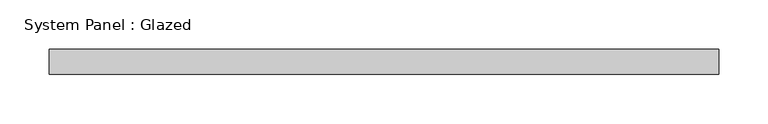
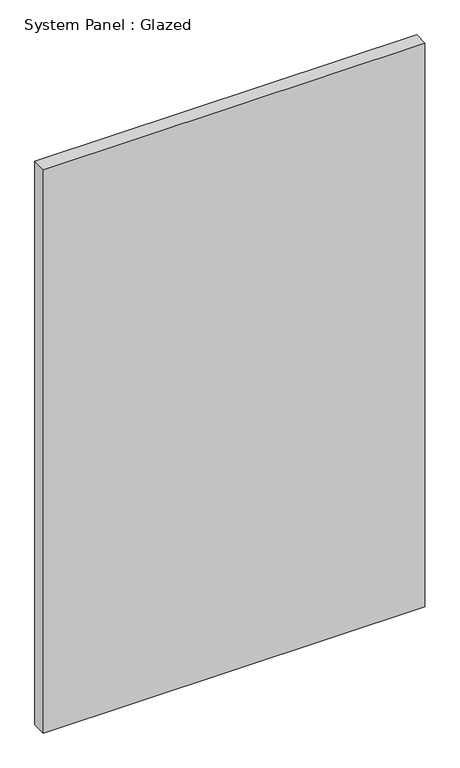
"""IFC4 building model written with IfcOpenShell, lengths in millimetres: plate geometry, System Panel : Glazed."""

from ifc_helpers import new_model, si_unit, origin, origin_with_axes, place, context, project, spatial, polyline, outline, extrude, source, transform, mapped, element, save


def system_panel_glazed_3f8747ce(model_context):
    return source(origin(), model_context, "Body", "SweptSolid", [
        extrude(outline(polyline([(339.725, 19.05), (-339.725, 19.05), (-339.725, 44.45), (339.725, 44.45), (339.725, 19.05)])), origin_with_axes(), (0.0, 0.0, 1.0), 1060.45),
    ])


if __name__ == "__main__":
    model = new_model("IFC4")
    model_context = context("Model", 3, world=origin())
    ifc_project = project(units=[si_unit("LENGTHUNIT", "METRE", prefix="MILLI")], contexts=[model_context])
    site = spatial("IfcSite", under=ifc_project)
    building = spatial("IfcBuilding", under=site)
    placement = place(None, origin())
    system_panel_glazed_shape = system_panel_glazed_3f8747ce(model_context)
    element("IfcPlate", 1, ObjectType="System Panel : Glazed", at=placement, inside=building, context=model_context, shape_type="MappedRepresentation", body=[
        mapped(system_panel_glazed_shape, transform((0.0, 0.0, 0.0), x_axis=(1.0, 0.0, 0.0), y_axis=(0.0, 1.0, 0.0), z_axis=(0.0, 0.0, 1.0))),
    ])
    save(model, "model.ifc")
